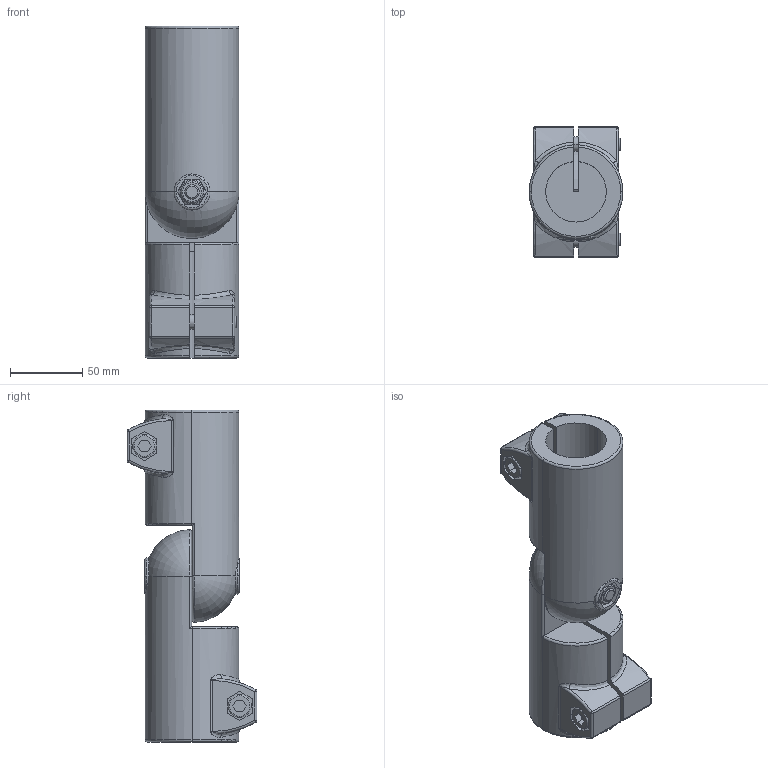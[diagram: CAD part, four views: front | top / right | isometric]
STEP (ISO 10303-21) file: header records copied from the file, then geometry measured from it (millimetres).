
FILE_DESCRIPTION (( 'STEP AP214' ), '1' );
FILE_NAME ('286-B42-B42-T-2-BL.step', '2021-12-02T12:13:50', ( '' ), ( '' ), 'SwSTEP 2.0', 'SolidWorks 2019', '' );
FILE_SCHEMA (( 'AUTOMOTIVE_DESIGN' ));
Length unit declared in the file: millimetre
Products named in the file (3): WB276^WB286_B42-IV-2-BL; 286-B42-B42-T-2-BL; WB276_1^WB286_B42-AV-2-BL
Assembly tree (2 placements, depth 2):
  286-B42-B42-T-2-BL
    WB276^WB286_B42-IV-2-BL
    WB276_1^WB286_B42-AV-2-BL
Bounding box: 65 x 90 x 230 mm (x, y, z)
Volume: 553634.6 mm3; surface area: 109714.4 mm2
Topology: 2 solids, 2 shells, 496 faces, 1256 edges, 782 vertices
Faces by surface type: plane 290, cylinder 108, torus 46, cone 24, bspline 20, sphere 8
Entity records: 19024 total; most frequent: CARTESIAN_POINT 6337, ORIENTED_EDGE 2496, DIRECTION 2358, EDGE_CURVE 1248, AXIS2_PLACEMENT_3D 929, VERTEX_POINT 782, EDGE_LOOP 528, LINE 500
